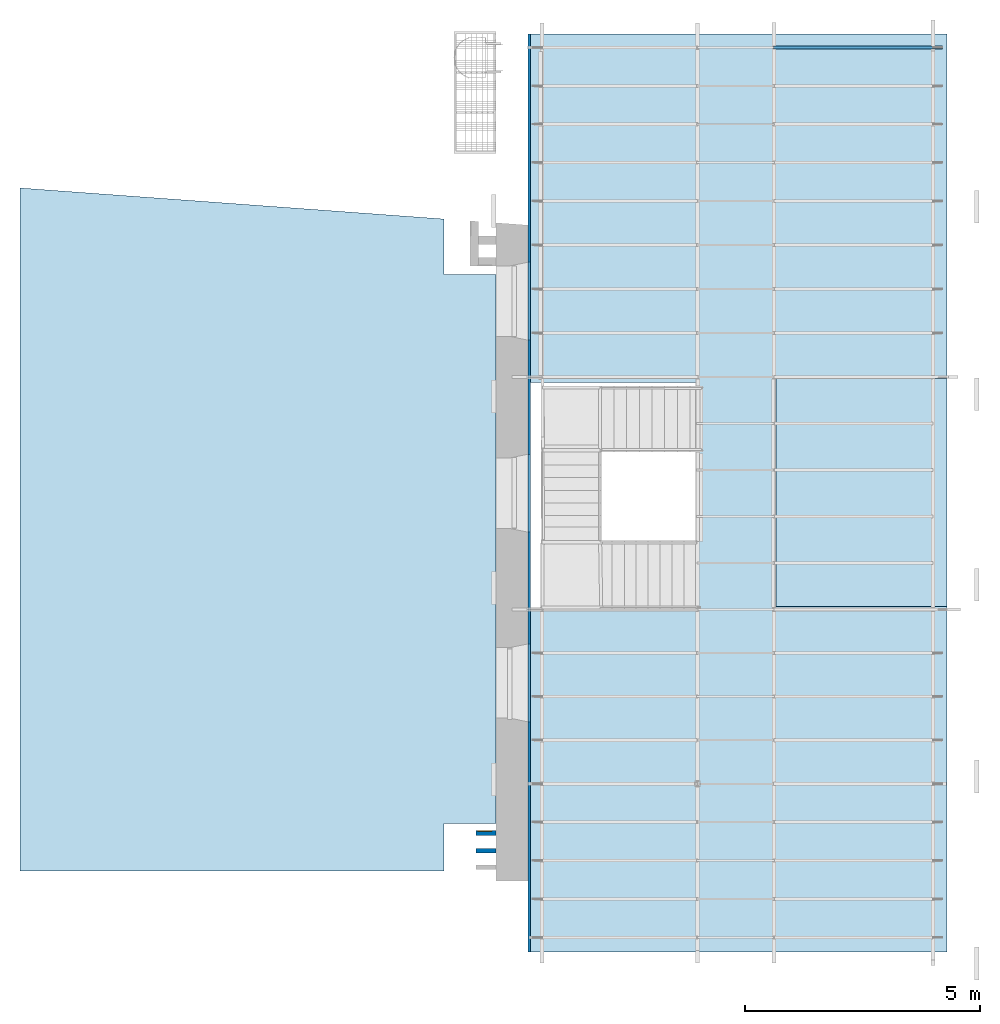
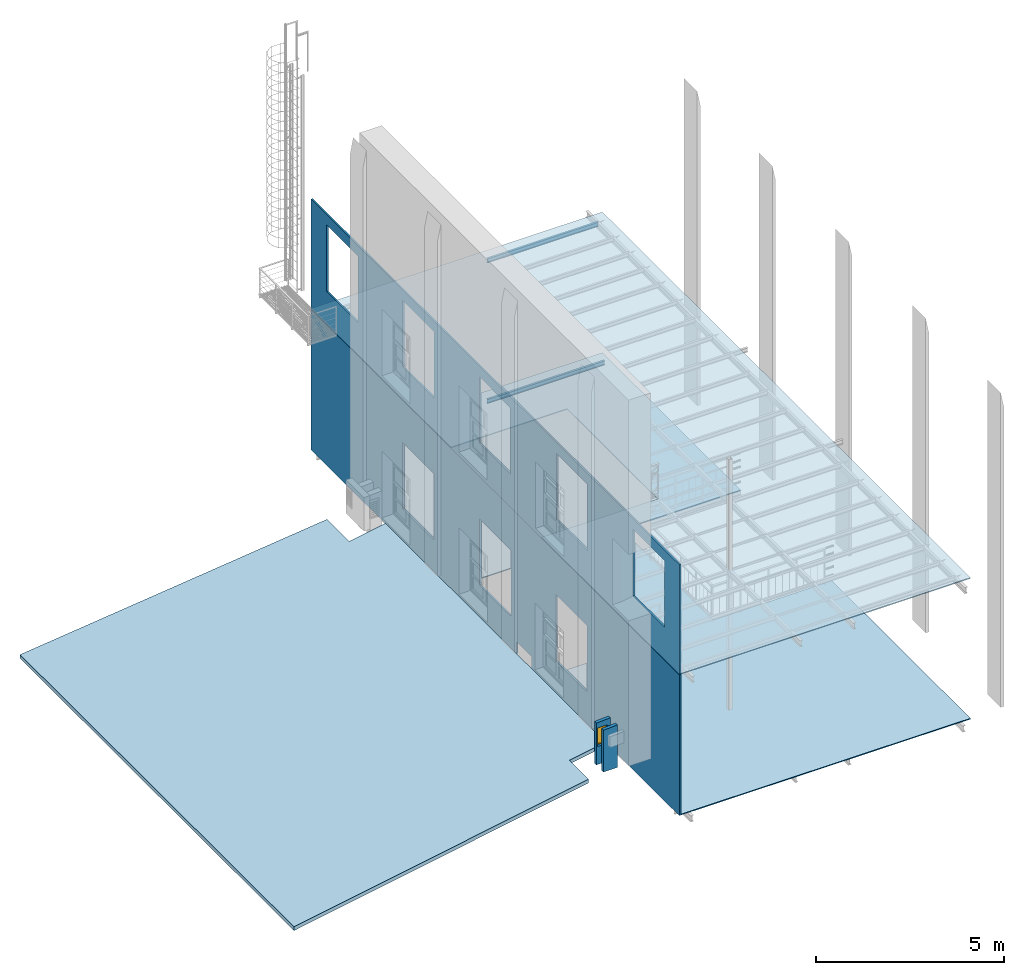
# One storey, part 22 of 33: 4 walls, 3 slabs, 2 beams, 1 window, 10 openings, 1 element without a shape of its own.
"""IFC2X3 building model written with IfcOpenShell, lengths in metres."""

from ifc_helpers import new_model, entity, si_unit, converted_unit, derived_unit, direction, frame, frame_2d, origin, origin_2d_with_axis, place, context, subcontext, project, spatial, polyline, circle_curve, parameter, trimmed, segment, composite_curve, rectangle, outline, extrude, clip, bounded_halfspace, source, transform, mapped, material, material_list, layer, layer_set, layer_usage, type_object, type_shapes, element, fill, aggregate, save


model = new_model("IFC2X3")

# Units and contexts
model_context = context("Model", 3, precision=1e-05, world=origin(), true_north=direction((6.12303176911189e-17, 1.0)))
body_context = subcontext(model_context, "Body", "Model", "MODEL_VIEW")
ifc_project = project(units=[si_unit("LENGTHUNIT", "METRE"), si_unit("AREAUNIT", "SQUARE_METRE"), si_unit("VOLUMEUNIT", "CUBIC_METRE"), converted_unit("PLANEANGLEUNIT", "DEGREE", entity("IfcRatioMeasure", 0.0174532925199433), si_unit("PLANEANGLEUNIT", "RADIAN"), dimensions=[0, 0, 0, 0, 0, 0, 0]), si_unit("MASSUNIT", "GRAM", prefix="KILO"), derived_unit("MASSDENSITYUNIT", [(si_unit("MASSUNIT", "GRAM", prefix="KILO"), 1), (si_unit("LENGTHUNIT", "METRE"), -3)]), derived_unit("MOMENTOFINERTIAUNIT", [(si_unit("LENGTHUNIT", "METRE"), 4)]), si_unit("TIMEUNIT", "SECOND"), si_unit("FREQUENCYUNIT", "HERTZ"), si_unit("THERMODYNAMICTEMPERATUREUNIT", "DEGREE_CELSIUS"), derived_unit("THERMALTRANSMITTANCEUNIT", [(si_unit("MASSUNIT", "GRAM", prefix="KILO"), 1), (si_unit("THERMODYNAMICTEMPERATUREUNIT", "KELVIN"), -1), (si_unit("TIMEUNIT", "SECOND"), -3)]), derived_unit("VOLUMETRICFLOWRATEUNIT", [(si_unit("LENGTHUNIT", "METRE"), 3), (si_unit("TIMEUNIT", "SECOND"), -1)]), si_unit("ELECTRICCURRENTUNIT", "AMPERE"), si_unit("ELECTRICVOLTAGEUNIT", "VOLT"), si_unit("POWERUNIT", "WATT"), si_unit("FORCEUNIT", "NEWTON", prefix="KILO"), si_unit("ILLUMINANCEUNIT", "LUX"), si_unit("LUMINOUSFLUXUNIT", "LUMEN"), si_unit("LUMINOUSINTENSITYUNIT", "CANDELA"), derived_unit("USERDEFINED", [(si_unit("MASSUNIT", "GRAM", prefix="KILO"), -1), (si_unit("LENGTHUNIT", "METRE"), -2), (si_unit("TIMEUNIT", "SECOND"), 3), (si_unit("LUMINOUSFLUXUNIT", "LUMEN"), 1)]), derived_unit("LINEARVELOCITYUNIT", [(si_unit("LENGTHUNIT", "METRE"), 1), (si_unit("TIMEUNIT", "SECOND"), -1)]), si_unit("PRESSUREUNIT", "PASCAL"), derived_unit("USERDEFINED", [(si_unit("LENGTHUNIT", "METRE"), -2), (si_unit("MASSUNIT", "GRAM", prefix="KILO"), 1), (si_unit("TIMEUNIT", "SECOND"), -2)]), derived_unit("LINEARFORCEUNIT", [(si_unit("MASSUNIT", "GRAM", prefix="KILO"), 1), (si_unit("LENGTHUNIT", "METRE"), 1), (si_unit("TIMEUNIT", "SECOND"), -2), (si_unit("LENGTHUNIT", "METRE"), -1)]), derived_unit("PLANARFORCEUNIT", [(si_unit("MASSUNIT", "GRAM", prefix="KILO"), 1), (si_unit("LENGTHUNIT", "METRE"), 1), (si_unit("TIMEUNIT", "SECOND"), -2), (si_unit("LENGTHUNIT", "METRE"), -2)])], contexts=[model_context])

# Site, building, storey
site_placement = place(None, origin())
site = spatial("IfcSite", under=ifc_project, at=site_placement, Name="Superficie", CompositionType="ELEMENT")
building_placement = place(site_placement, origin())
building = spatial("IfcBuilding", under=site, at=building_placement, Name="Telegestiones", CompositionType="ELEMENT")
storey_placement = place(building_placement, frame((0.0, 0.0, 4.94)))
storey = spatial("IfcBuildingStorey", under=building, at=storey_placement, Name="Nivel 1_NPT", CompositionType="ELEMENT", Elevation=4.94)

# Beams
ifc_material_1 = material(Name="Metal - Acero - 345 MPa")
beam_type = type_object("IfcBeamType", Name="IPN - Secciones en I con alas cónicas:IPN 140", PredefinedType="NOTDEFINED")
beam_1_placement = place(storey_placement, frame((11.2608126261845, 13.4536072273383, 0.0)))
element("IfcBeam", 1, at=beam_1_placement, inside=storey, type_object=beam_type, material=ifc_material_1, Name="IPN - Secciones en I con alas cónicas:IPN 140", ObjectType="IPN - Secciones en I con alas cónicas:IPN 140", context=body_context, shape_type="SweptSolid", body=[
    extrude(outline(composite_curve([segment(polyline([(0.0666671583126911, -0.032999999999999), (0.0700000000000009, -0.032999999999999)]), True, "CONTINUOUS"), segment(polyline([(0.0700000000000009, -0.032999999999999), (0.0700000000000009, 0.032999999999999)]), True, "CONTINUOUS"), segment(polyline([(0.0700000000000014, 0.032999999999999), (0.0666671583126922, 0.032999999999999)]), True, "CONTINUOUS"), segment(trimmed(circle_curve(frame_2d((0.0666671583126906, 0.0296000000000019), x_axis=(0.0, 1.0)), 0.00339999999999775), [parameter(0.0)], [parameter(82.0303896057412)], True, "PARAMETER"), True, "CONTINUOUS"), segment(polyline([(0.0632999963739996, 0.0300714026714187), (0.0601763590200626, 0.00775970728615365)]), True, "CONTINUOUS"), segment(trimmed(circle_curve(frame_2d((0.0545314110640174, 0.00855000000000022), x_axis=(0.990341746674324, -0.138647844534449)), 0.00570000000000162), [parameter(277.96961039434)], [parameter(0.0)], True, "PARAMETER"), False, "CONTINUOUS"), segment(polyline([(0.0545314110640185, 0.00284999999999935), (-0.0545314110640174, 0.00284999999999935)]), True, "CONTINUOUS"), segment(trimmed(circle_curve(frame_2d((-0.0545314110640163, 0.00855000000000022), x_axis=(0.0, -1.0)), 0.00570000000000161), [parameter(277.969610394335)], [parameter(0.0)], True, "PARAMETER"), False, "CONTINUOUS"), segment(polyline([(-0.0601763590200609, 0.00775970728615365), (-0.0632999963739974, 0.0300714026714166)]), True, "CONTINUOUS"), segment(trimmed(circle_curve(frame_2d((-0.0666671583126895, 0.0295999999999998), x_axis=(0.990341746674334, 0.138647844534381)), 0.00339999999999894), [parameter(0.0)], [parameter(82.0303896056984)], True, "PARAMETER"), True, "CONTINUOUS"), segment(polyline([(-0.0666671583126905, 0.032999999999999), (-0.0699999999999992, 0.032999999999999)]), True, "CONTINUOUS"), segment(polyline([(-0.0699999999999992, 0.0330000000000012), (-0.0699999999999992, -0.032999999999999)]), True, "CONTINUOUS"), segment(polyline([(-0.0699999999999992, -0.032999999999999), (-0.0666671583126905, -0.032999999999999)]), True, "CONTINUOUS"), segment(trimmed(circle_curve(frame_2d((-0.0666671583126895, -0.0295999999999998), x_axis=(0.0, -1.0)), 0.00339999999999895), [parameter(0.0)], [parameter(82.0303896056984)], True, "PARAMETER"), True, "CONTINUOUS"), segment(polyline([(-0.0632999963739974, -0.0300714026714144), (-0.0601763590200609, -0.00775970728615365)]), True, "CONTINUOUS"), segment(trimmed(circle_curve(frame_2d((-0.0545314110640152, -0.00855000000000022), x_axis=(-0.990341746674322, 0.138647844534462)), 0.00570000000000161), [parameter(277.969610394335)], [parameter(0.0)], True, "PARAMETER"), False, "CONTINUOUS"), segment(polyline([(-0.0545314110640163, -0.00284999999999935), (0.0545314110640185, -0.00284999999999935)]), True, "CONTINUOUS"), segment(trimmed(circle_curve(frame_2d((0.0545314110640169, -0.00855000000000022), x_axis=(0.0, 1.0)), 0.00570000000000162), [parameter(277.96961039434)], [parameter(0.0)], True, "PARAMETER"), False, "CONTINUOUS"), segment(polyline([(0.060176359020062, -0.00775970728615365), (0.0632999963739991, -0.0300714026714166)]), True, "CONTINUOUS"), segment(trimmed(circle_curve(frame_2d((0.06666715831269, -0.0295999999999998), x_axis=(-0.990341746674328, -0.138647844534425)), 0.00339999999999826), [parameter(0.0)], [parameter(82.030389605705)], True, "PARAMETER"), True, "CONTINUOUS")], self_intersect=False)), frame((0.000405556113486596, 0.0, -0.100000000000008), z_axis=(1.0, 0.0, 0.0), x_axis=(0.0, 0.0, -1.0)), (0.0, 0.0, 1.0), 3.60122731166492),
])
beam_2_placement = place(storey_placement, frame((11.2748126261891, 13.4536072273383, 4.56)))
element("IfcBeam", 2, at=beam_2_placement, inside=storey, type_object=beam_type, material=ifc_material_1, Name="IPN - Secciones en I con alas cónicas:IPN 140", ObjectType="IPN - Secciones en I con alas cónicas:IPN 140", context=body_context, shape_type="SweptSolid", body=[
    extrude(outline(composite_curve([segment(polyline([(0.0666671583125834, -0.0330000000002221), (0.0699999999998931, -0.0330000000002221)]), True, "CONTINUOUS"), segment(polyline([(0.0699999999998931, -0.0330000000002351), (0.0700000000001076, 0.0329999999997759)]), True, "CONTINUOUS"), segment(polyline([(0.0700000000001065, 0.0329999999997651), (0.0666671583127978, 0.0329999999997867)]), True, "CONTINUOUS"), segment(trimmed(circle_curve(frame_2d((0.0666671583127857, 0.0295999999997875), x_axis=(0.0, 1.0)), 0.00339999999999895), [parameter(0.0)], [parameter(82.0303896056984)], True, "PARAMETER"), True, "CONTINUOUS"), segment(polyline([(0.0632999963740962, 0.0300714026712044), (0.0601763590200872, 0.00775970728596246)]), True, "CONTINUOUS"), segment(trimmed(circle_curve(frame_2d((0.0545314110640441, 0.00854999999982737), x_axis=(0.990341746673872, -0.13864784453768)), 0.00570000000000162), [parameter(277.969610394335)], [parameter(0.0)], True, "PARAMETER"), False, "CONTINUOUS"), segment(polyline([(0.0545314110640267, 0.00284999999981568), (-0.0545314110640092, 0.00285000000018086)]), True, "CONTINUOUS"), segment(trimmed(circle_curve(frame_2d((-0.0545314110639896, 0.00855000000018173), x_axis=(0.0, -1.0)), 0.00570000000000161), [parameter(277.969610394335)], [parameter(0.0)], True, "PARAMETER"), False, "CONTINUOUS"), segment(polyline([(-0.0601763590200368, 0.00775970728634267), (-0.0632999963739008, 0.0300714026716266)]), True, "CONTINUOUS"), segment(trimmed(circle_curve(frame_2d((-0.0666671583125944, 0.0296000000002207), x_axis=(0.990341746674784, 0.138647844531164)), 0.00339999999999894), [parameter(0.0)], [parameter(82.0303896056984)], True, "PARAMETER"), True, "CONTINUOUS"), segment(polyline([(-0.0666671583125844, 0.0330000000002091), (-0.0699999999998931, 0.0330000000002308)]), True, "CONTINUOUS"), segment(polyline([(-0.0699999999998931, 0.0330000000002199), (-0.0700000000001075, -0.0329999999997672)]), True, "CONTINUOUS"), segment(polyline([(-0.0700000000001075, -0.0329999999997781), (-0.0666671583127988, -0.0329999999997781)]), True, "CONTINUOUS"), segment(trimmed(circle_curve(frame_2d((-0.0666671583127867, -0.0295999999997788), x_axis=(0.0, -1.0)), 0.00339999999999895), [parameter(0.0)], [parameter(82.0303896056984)], True, "PARAMETER"), True, "CONTINUOUS"), segment(polyline([(-0.0632999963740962, -0.0300714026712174), (-0.0601763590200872, -0.0077597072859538)]), True, "CONTINUOUS"), segment(trimmed(circle_curve(frame_2d((-0.0545314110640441, -0.00854999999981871), x_axis=(-0.990341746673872, 0.13864784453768)), 0.00570000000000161), [parameter(277.969610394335)], [parameter(0.0)], True, "PARAMETER"), False, "CONTINUOUS"), segment(polyline([(-0.0545314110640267, -0.00284999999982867), (0.0545314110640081, -0.0028500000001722)]), True, "CONTINUOUS"), segment(trimmed(circle_curve(frame_2d((0.0545314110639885, -0.00855000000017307), x_axis=(0.0, 1.0)), 0.00570000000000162), [parameter(277.969610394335)], [parameter(0.0)], True, "PARAMETER"), False, "CONTINUOUS"), segment(polyline([(0.0601763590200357, -0.00775970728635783), (0.0632999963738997, -0.0300714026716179)]), True, "CONTINUOUS"), segment(trimmed(circle_curve(frame_2d((0.0666671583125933, -0.029600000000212), x_axis=(-0.990341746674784, -0.138647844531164)), 0.00339999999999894), [parameter(0.0)], [parameter(82.0303896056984)], True, "PARAMETER"), True, "CONTINUOUS")], self_intersect=False)), frame((-0.015000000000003, 0.0, -0.100000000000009), z_axis=(1.0, 0.0, 0.0), x_axis=(0.0, 0.0, -1.0)), (0.0, 0.0, 1.0), 3.405),
])

# Roof, slab
roof_placement = place(storey_placement, frame((-4.78518737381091, -4.08639277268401, -1.01)))
roof = element("IfcRoof", 3, at=roof_placement, inside=storey, Name="Cubierta básica:ARQ-CU-EX-12-Iso", ObjectType="Cubierta básica:ARQ-CU-EX-12-Iso", ShapeType="NOTDEFINED")
ifc_material_2 = material(Name="Plástico, blanco opaco")
ifc_layer_1 = layer(ifc_material_2, 0.01)
ifc_material_3 = material(Name="EIFS, aislamiento exterior")
ifc_layer_2 = layer(ifc_material_3, 0.1)
ifc_layer_3 = layer(ifc_material_2, 0.01)
ifc_layer_set_1 = layer_set([ifc_layer_1, ifc_layer_2, ifc_layer_3], Name="Cubierta básica:ARQ-CU-EX-12-Iso")
slab_type_1 = type_object("IfcSlabType", Name="Cubierta básica:ARQ-CU-EX-12-Iso", PredefinedType="ROOF")
slab_1_placement = place(roof_placement, origin())
slab_1 = element("IfcSlab", 4, at=slab_1_placement, type_object=slab_type_1, material=ifc_layer_set_1, Name="Cubierta básica:ARQ-CU-EX-12-Iso", ObjectType="Cubierta básica:ARQ-CU-EX-12-Iso", PredefinedType="ROOF", context=body_context, shape_type="SweptSolid", body=[
    extrude(outline(polyline([(4.02390624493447, -7.27593394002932), (4.02390624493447, -6.26593394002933), (5.15121365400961, -6.26593394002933), (5.15121365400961, 5.43406605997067), (4.02390624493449, 5.43406605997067), (4.0239062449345, 6.61489049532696), (-5.15121365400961, 7.27593394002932), (-5.15121365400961, -7.27593394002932), (4.02390624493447, -7.27593394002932)])), frame((5.06973857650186, 7.27593394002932, 0.912552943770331), z_axis=(-0.177152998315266, 0.0, 0.984183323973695), x_axis=(0.984183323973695, 0.0, 0.177152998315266)), (0.177152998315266, 0.0, 0.984183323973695), 0.121928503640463),
])
aggregate(roof, [slab_1])

# Slabs
ifc_material_4 = material(Name="Contrachapado, entablados")
ifc_layer_4 = layer(ifc_material_4, 0.03)
ifc_layer_set_2 = layer_set([ifc_layer_4], Name="Suelo:ARQ-SU-3-Mad")
ifc_layer_usage_1 = layer_usage(ifc_layer_set_2, "AXIS3", "POSITIVE", 0.0)
slab_type_2 = type_object("IfcSlabType", Name="Suelo:ARQ-SU-3-Mad", PredefinedType="FLOOR", material=ifc_layer_set_2)
slab_2_placement = place(storey_placement, origin())
element("IfcSlab", 5, at=slab_2_placement, inside=storey, type_object=slab_type_2, material=ifc_layer_usage_1, Name="Suelo:ARQ-SU-3-Mad", ObjectType="Suelo:ARQ-SU-3-Mad", PredefinedType="FLOOR", context=body_context, shape_type="SweptSolid", body=[
    extrude(outline(polyline([(-9.75988206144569, -4.45265102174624), (-2.44392087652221, -4.45265102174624), (-2.44392087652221, -0.884651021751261), (2.36628731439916, -0.884651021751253), (2.36636766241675, -4.45265102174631), (9.79009228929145, -4.45265102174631), (9.79009228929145, 4.47787182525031), (2.4481524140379, 4.4778718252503), (2.4481524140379, 0.834209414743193), (-2.40076925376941, 0.834209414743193), (-2.40076925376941, 4.4778718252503), (-9.75988206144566, 4.47787182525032), (-9.75988206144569, -4.45265102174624)])), frame((10.4869408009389, 3.95351493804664, 0.0), z_axis=(0.0, 0.0, -1.0), x_axis=(0.0, 1.0, 0.0)), (0.0, 0.0, 1.0), 0.0299999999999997),
])
ifc_layer_usage_2 = layer_usage(ifc_layer_set_2, "AXIS3", "POSITIVE", 0.0)
slab_type_3 = type_object("IfcSlabType", Name="Suelo:ARQ-SU-3-Mad", PredefinedType="FLOOR", material=ifc_layer_set_2)
slab_3_placement = place(storey_placement, origin())
element("IfcSlab", 6, at=slab_3_placement, inside=storey, type_object=slab_type_3, material=ifc_layer_usage_2, Name="Suelo:ARQ-SU-3-Mad", ObjectType="Suelo:ARQ-SU-3-Mad", PredefinedType="FLOOR", context=body_context, shape_type="SweptSolid", body=[
    extrude(outline(polyline([(-9.74803627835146, -3.12401142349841), (-2.43207509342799, -3.12401142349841), (-2.43207509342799, 0.441511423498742), (2.37813315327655, 0.441511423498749), (2.37821344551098, -3.12401142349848), (9.80193807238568, -3.12401142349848), (9.80193807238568, 5.80651142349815), (-9.74803627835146, 5.80651142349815), (-9.74803627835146, -3.12401142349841)])), frame((9.15830120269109, 3.94166915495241, 4.56), z_axis=(0.0, 0.0, -1.0), x_axis=(0.0, 1.0, 0.0)), (0.0, 0.0, 1.0), 0.0299999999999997),
])

# Wall, openings
ifc_material_5 = material(Name="Placa yeso entera")
ifc_layer_5 = layer(ifc_material_5, 0.012)
ifc_material_6 = material(Name="Estructura de Hierro Galvanizado")
ifc_layer_6 = layer(ifc_material_6, 0.038)
ifc_layer_set_3 = layer_set([ifc_layer_5, ifc_layer_6], Name="Muro básico:ARQ-RE-IN-5-Ye-M2")
ifc_layer_usage_3 = layer_usage(ifc_layer_set_3, "AXIS2", "NEGATIVE", 0.025)
wall_type_1 = type_object("IfcWallType", Name="Muro básico:ARQ-RE-IN-5-Ye-M2", PredefinedType="STANDARD", material=ifc_layer_set_3)
wall_1_placement = place(storey_placement, frame((6.05928977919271, 13.7436072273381, -0.0299999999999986), z_axis=(0.0, 0.0, 1.0), x_axis=(0.0, -1.0, 0.0)))
wall_1 = element("IfcWallStandardCase", 7, at=wall_1_placement, inside=storey, type_object=wall_type_1, material=ifc_layer_usage_3, Name="Muro básico:ARQ-RE-IN-5-Ye-M2", ObjectType="Muro básico:ARQ-RE-IN-5-Ye-M2", context=body_context, shape_type="SweptSolid", body=[
    extrude(rectangle(XDim=19.5499743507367, YDim=0.0499999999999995, at=frame_2d((9.77498717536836, -2.16840434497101e-16), x_axis=(-1.0, 0.0))), origin(), (0.0, 0.0, 1.0), 4.56),
])
opening_1_placement = place(wall_1_placement, origin())
element("IfcOpeningElement", 8, at=opening_1_placement, cuts=wall_1, Name="Muro básico:ARQ-RE-IN-5-Ye-M2", ObjectType="Opening", context=body_context, shape_type="SweptSolid", body=[
    extrude(rectangle(XDim=2.15, YDim=1.65978549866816, at=frame_2d((-5.55111512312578e-16, 0.0), x_axis=(1.0, 0.0))), frame((13.8207271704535, 0.0249999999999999, 2.115), z_axis=(0.0, -1.0, 0.0), x_axis=(0.0, 0.0, 1.0)), (0.0, 0.0, 1.0), 0.05),
])
opening_2_placement = place(wall_1_placement, origin())
element("IfcOpeningElement", 9, at=opening_2_placement, cuts=wall_1, Name="Muro básico:ARQ-RE-IN-5-Ye-M2", ObjectType="Opening", context=body_context, shape_type="SweptSolid", body=[
    extrude(rectangle(XDim=2.15, YDim=1.65978549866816, at=origin_2d_with_axis()), frame((9.78074248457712, 0.025, 2.115), z_axis=(0.0, -1.0, 0.0), x_axis=(0.0, 0.0, 1.0)), (0.0, 0.0, 1.0), 0.05),
])
opening_3_placement = place(wall_1_placement, origin())
element("IfcOpeningElement", 10, at=opening_3_placement, cuts=wall_1, Name="Muro básico:ARQ-RE-IN-5-Ye-M2", ObjectType="Opening", context=body_context, shape_type="SweptSolid", body=[
    extrude(rectangle(XDim=2.15, YDim=1.65978549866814, at=frame_2d((4.9960036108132e-16, 1.11022302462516e-15), x_axis=(0.0, 1.0))), frame((5.69000000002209, 0.0249999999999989, 2.115), z_axis=(0.0, -1.0, 0.0), x_axis=(1.0, 0.0, 0.0)), (0.0, 0.0, 1.0), 0.05),
])
opening_4_placement = place(wall_1_placement, origin())
element("IfcOpeningElement", 11, at=opening_4_placement, cuts=wall_1, Name="Muro básico:ARQ-RE-IN-5-Ye-M2", ObjectType="Opening", context=body_context, shape_type="SweptSolid", body=[
    extrude(rectangle(XDim=0.399999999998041, YDim=0.799999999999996, at=frame_2d((0.0, 5.41233724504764e-16), x_axis=(0.0, 1.0))), frame((11.3060000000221, 0.0249999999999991, 0.19999999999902), z_axis=(0.0, -1.0, 0.0), x_axis=(1.0, 0.0, 0.0)), (0.0, 0.0, 1.0), 0.05),
])

ifc_layer_usage_4 = layer_usage(ifc_layer_set_3, "AXIS2", "NEGATIVE", 0.025)
wall_2_placement = place(storey_placement, frame((6.05928977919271, 13.7436072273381, 4.53), z_axis=(0.0, 0.0, 1.0), x_axis=(0.0, -1.0, 0.0)))
wall_2 = element("IfcWallStandardCase", 12, at=wall_2_placement, inside=storey, type_object=wall_type_1, material=ifc_layer_usage_4, Name="Muro básico:ARQ-RE-IN-5-Ye-M2", ObjectType="Muro básico:ARQ-RE-IN-5-Ye-M2", context=body_context, shape_type="SweptSolid", body=[
    extrude(rectangle(XDim=19.5499743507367, YDim=0.0499999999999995, at=frame_2d((9.77498717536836, -2.16840434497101e-16), x_axis=(-1.0, 0.0))), origin(), (0.0, 0.0, 1.0), 3.57571042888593),
])
opening_5_placement = place(wall_2_placement, origin())
element("IfcOpeningElement", 13, at=opening_5_placement, cuts=wall_2, Name="Muro básico:ARQ-RE-IN-5-Ye-M2", ObjectType="Opening", context=body_context, shape_type="SweptSolid", body=[
    extrude(rectangle(XDim=2.15, YDim=1.65978549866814, at=frame_2d((1.11022302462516e-15, 0.0), x_axis=(1.0, 0.0))), frame((9.77000000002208, 0.0249999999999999, 2.155), z_axis=(0.0, -1.0, 0.0), x_axis=(0.0, 0.0, -1.0)), (0.0, 0.0, 1.0), 0.05),
])
opening_6_placement = place(wall_2_placement, origin())
element("IfcOpeningElement", 14, at=opening_6_placement, cuts=wall_2, Name="Muro básico:ARQ-RE-IN-5-Ye-M2", ObjectType="Opening", context=body_context, shape_type="SweptSolid", body=[
    extrude(rectangle(XDim=2.15, YDim=1.65978549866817, at=frame_2d((-1.11022302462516e-15, 0.0), x_axis=(1.0, 0.0))), frame((1.65568896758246, 0.0250000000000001, 2.155), z_axis=(0.0, -1.0, 0.0), x_axis=(0.0, 0.0, 1.0)), (0.0, 0.0, 1.0), 0.05),
])
opening_7_placement = place(wall_2_placement, origin())
element("IfcOpeningElement", 15, at=opening_7_placement, cuts=wall_2, Name="Muro básico:ARQ-RE-IN-5-Ye-M2", ObjectType="Opening", context=body_context, shape_type="SweptSolid", body=[
    extrude(rectangle(XDim=2.15, YDim=1.65978549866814, at=frame_2d((1.11022302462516e-15, 0.0), x_axis=(1.0, 0.0))), frame((5.69000000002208, 0.0249999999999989, 2.155), z_axis=(0.0, -1.0, 0.0), x_axis=(0.0, 0.0, -1.0)), (0.0, 0.0, 1.0), 0.05),
])
opening_8_placement = place(wall_2_placement, origin())
element("IfcOpeningElement", 16, at=opening_8_placement, cuts=wall_2, Name="Muro básico:ARQ-RE-IN-5-Ye-M2", ObjectType="Opening", context=body_context, shape_type="SweptSolid", body=[
    extrude(rectangle(XDim=2.15, YDim=1.65978549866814, at=origin_2d_with_axis()), frame((13.8500000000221, 0.0249999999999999, 2.155), z_axis=(0.0, -1.0, 0.0), x_axis=(0.0, 0.0, 1.0)), (0.0, 0.0, 1.0), 0.05),
])
opening_9_placement = place(wall_2_placement, origin())
element("IfcOpeningElement", 17, at=opening_9_placement, cuts=wall_2, Name="Muro básico:ARQ-RE-IN-5-Ye-M2", ObjectType="Opening", context=body_context, shape_type="SweptSolid", body=[
    extrude(rectangle(XDim=2.15, YDim=1.65978549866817, at=frame_2d((0.0, 1.11022302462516e-15), x_axis=(0.0, 1.0))), frame((17.9300000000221, 0.0249999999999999, 2.155), z_axis=(0.0, -1.0, 0.0), x_axis=(-1.0, 0.0, 0.0)), (0.0, 0.0, 1.0), 0.05),
])

# Wall
ifc_layer_7 = layer(ifc_material_5, 0.015)
ifc_layer_8 = layer(ifc_material_6, 0.07)
ifc_layer_9 = layer(ifc_material_5, 0.015)
ifc_layer_set_4 = layer_set([ifc_layer_7, ifc_layer_8, ifc_layer_9], Name="Muro básico:ARQ-MU-IN-10-Ye-T8")
ifc_layer_usage_5 = layer_usage(ifc_layer_set_4, "AXIS2", "NEGATIVE", 0.05)
wall_type_2 = type_object("IfcWallType", Name="Muro básico:ARQ-MU-IN-10-Ye-T8", PredefinedType="STANDARD", material=ifc_layer_set_4)
wall_3_placement = place(storey_placement, frame((4.92428977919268, -3.65639277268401, 0.5)))
element("IfcWallStandardCase", 18, at=wall_3_placement, inside=storey, type_object=wall_type_2, material=ifc_layer_usage_5, Name="Muro básico:ARQ-MU-IN-10-Ye-T8", ObjectType="Muro básico:ARQ-MU-IN-10-Ye-T8", context=body_context, shape_type="Clipping", body=[
    clip(extrude(rectangle(XDim=0.43, YDim=0.1, at=frame_2d((0.215, -5.89805981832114e-17), x_axis=(-1.0, 0.0))), origin(), (0.0, 0.0, 1.0), 1.37985612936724), bounded_halfspace(frame((0.0, -0.05, 1.35405612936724), z_axis=(-0.0598922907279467, 0.0, 0.998204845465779), x_axis=(0.0, 1.0, 0.0)), False, frame((0.0, -0.05, 1.35405612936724)), polyline([(0.0, 0.0), (0.43, 0.0), (0.429999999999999, 0.0999999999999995), (0.0, 0.1), (0.0, 0.0)]))),
])

# Wall, opening, window
ifc_layer_usage_6 = layer_usage(ifc_layer_set_4, "AXIS2", "NEGATIVE", 0.05)
wall_4_placement = place(storey_placement, frame((4.92428977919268, -3.27639277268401, 0.5)))
wall_4 = element("IfcWallStandardCase", 19, at=wall_4_placement, inside=storey, type_object=wall_type_2, material=ifc_layer_usage_6, Name="Muro básico:ARQ-MU-IN-10-Ye-T8", ObjectType="Muro básico:ARQ-MU-IN-10-Ye-T8", context=body_context, shape_type="Clipping", body=[
    clip(extrude(rectangle(XDim=0.429999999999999, YDim=0.1, at=frame_2d((0.214999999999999, -5.89805981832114e-17), x_axis=(-1.0, 0.0))), origin(), (0.0, 0.0, 1.0), 1.37985612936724), bounded_halfspace(frame((0.0, -0.05, 1.35405612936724), z_axis=(-0.0598922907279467, 0.0, 0.998204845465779), x_axis=(0.0, 1.0, 0.0)), False, frame((0.0, -0.05, 1.35405612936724)), polyline([(0.0, 0.0), (0.429999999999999, 0.0), (0.429999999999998, 0.0999999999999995), (0.0, 0.1), (0.0, 0.0)]))),
])
opening_10_placement = place(wall_4_placement, frame((0.0399999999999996, -0.0500000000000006, 0.584595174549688)))
opening_10 = element("IfcOpeningElement", 20, at=opening_10_placement, cuts=wall_4, Name="ARQ-Rejilla ventilación:ARQ-Rejilla ventilación:1", ObjectType="Opening", context=body_context, shape_type="SweptSolid", body=[
    extrude(rectangle(XDim=0.6, YDim=0.3, at=frame_2d((0.3, 0.15), x_axis=(1.0, 0.0))), frame((0.0, 0.0, 0.0), z_axis=(0.0, 1.0, 0.0), x_axis=(0.0, 0.0, 1.0)), (0.0, 0.0, 1.0), 0.1),
])
ifc_material_7 = material(Name="Aluminio (1)")
ifc_material_list = material_list([ifc_material_7, ifc_material_7, ifc_material_7, ifc_material_7, ifc_material_7, ifc_material_7, ifc_material_7, ifc_material_7, ifc_material_7, ifc_material_7])
window_style = type_object("IfcWindowStyle", Name="ARQ-Rejilla ventilación:ARQ-Rejilla ventilación", ConstructionType="NOTDEFINED", OperationType="NOTDEFINED", ParameterTakesPrecedence=False, Sizeable=False, material=ifc_material_list)
shared_shape = source(origin(), body_context, "Body", "SweptSolid", [
    extrude(outline(polyline([(-0.01, -0.0325000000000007), (-0.00453733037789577, -0.0325000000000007), (0.00999999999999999, 0.032500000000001), (0.00453733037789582, 0.032500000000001), (-0.01, -0.0325000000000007)])), frame((0.0300000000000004, 0.0900000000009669, 0.537499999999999), z_axis=(1.0, 0.0, 0.0), x_axis=(0.0, -1.0, 0.0)), (0.0, 0.0, 1.0), 0.24),
    extrude(outline(polyline([(-0.0100000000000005, -0.032500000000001), (-0.00453733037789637, -0.032500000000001), (0.0100000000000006, 0.0325000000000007), (0.00453733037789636, 0.0325000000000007), (-0.0100000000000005, -0.032500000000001)])), frame((0.0300000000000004, 0.0900000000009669, 0.212499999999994), z_axis=(1.0, 0.0, 0.0), x_axis=(0.0, -1.0, 0.0)), (0.0, 0.0, 1.0), 0.24),
    extrude(outline(polyline([(-0.010000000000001, -0.0325000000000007), (-0.00453733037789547, -0.0325000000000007), (0.0100000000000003, 0.032500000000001), (0.00453733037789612, 0.032500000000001), (-0.010000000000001, -0.0325000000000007)])), frame((0.0300000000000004, 0.0900000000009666, 0.147499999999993), z_axis=(1.0, 0.0, 0.0), x_axis=(0.0, -1.0, 0.0)), (0.0, 0.0, 1.0), 0.24),
    extrude(outline(polyline([(-0.0100000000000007, -0.0325000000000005), (-0.00453733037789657, -0.0325000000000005), (0.0100000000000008, 0.0325000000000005), (0.00453733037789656, 0.0325000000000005), (-0.0100000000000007, -0.0325000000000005)])), frame((0.0300000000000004, 0.0900000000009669, 0.0824999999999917), z_axis=(1.0, 0.0, 0.0), x_axis=(0.0, -1.0, 0.0)), (0.0, 0.0, 1.0), 0.24),
    extrude(outline(polyline([(-0.0049678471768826, -0.0099999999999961), (0.000494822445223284, -0.0099999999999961), (0.00496784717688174, 0.00999999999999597), (-0.000494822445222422, 0.00999999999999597), (-0.0049678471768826, -0.0099999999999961)])), frame((0.0300000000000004, 0.0950321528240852, 0.0399999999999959), z_axis=(1.0, 0.0, 0.0), x_axis=(0.0, -1.0, 0.0)), (0.0, 0.0, 1.0), 0.24),
    extrude(outline(polyline([(-0.0100000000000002, -0.032500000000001), (-0.00453733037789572, -0.032500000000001), (0.0100000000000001, 0.0325000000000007), (0.00453733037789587, 0.0325000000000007), (-0.0100000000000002, -0.032500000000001)])), frame((0.0300000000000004, 0.0900000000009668, 0.472499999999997), z_axis=(1.0, 0.0, 0.0), x_axis=(0.0, -1.0, 0.0)), (0.0, 0.0, 1.0), 0.24),
    extrude(outline(polyline([(-0.0100000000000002, -0.0325000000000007), (-0.00453733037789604, -0.0325000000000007), (0.0100000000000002, 0.032500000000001), (0.00453733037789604, 0.032500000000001), (-0.0100000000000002, -0.0325000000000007)])), frame((0.0300000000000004, 0.0900000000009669, 0.407499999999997), z_axis=(1.0, 0.0, 0.0), x_axis=(0.0, -1.0, 0.0)), (0.0, 0.0, 1.0), 0.24),
    extrude(outline(polyline([(-0.0100000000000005, -0.032500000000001), (-0.00453733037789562, -0.032500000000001), (0.0100000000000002, 0.0325000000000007), (0.00453733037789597, 0.0325000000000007), (-0.0100000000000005, -0.032500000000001)])), frame((0.0300000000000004, 0.0900000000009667, 0.342499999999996), z_axis=(1.0, 0.0, 0.0), x_axis=(0.0, -1.0, 0.0)), (0.0, 0.0, 1.0), 0.24),
    extrude(outline(polyline([(-0.0100000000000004, -0.0325000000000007), (-0.00453733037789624, -0.0325000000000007), (0.0100000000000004, 0.032500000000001), (0.00453733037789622, 0.032500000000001), (-0.0100000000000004, -0.0325000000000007)])), frame((0.0300000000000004, 0.0900000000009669, 0.277499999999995), z_axis=(1.0, 0.0, 0.0), x_axis=(0.0, -1.0, 0.0)), (0.0, 0.0, 1.0), 0.24),
    extrude(outline(polyline([(-0.15, -0.3), (0.15, -0.3), (0.15, 0.3), (-0.15, 0.3), (-0.15, -0.3)]), holes=[polyline([(-0.12, -0.27), (-0.12, 0.27), (0.12, 0.27), (0.12, -0.27), (-0.12, -0.27)])]), frame((0.15, 0.0800000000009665, 0.3), z_axis=(0.0, 1.0, 0.0), x_axis=(1.0, 0.0, 0.0)), (0.0, 0.0, 1.0), 0.02),
])
type_shapes(window_style, [shared_shape])
window_placement = place(opening_10_placement, origin())
window = element("IfcWindow", 21, at=window_placement, inside=storey, type_object=window_style, material=ifc_material_7, Name="ARQ-Rejilla ventilación:ARQ-Rejilla ventilación", ObjectType="ARQ-Rejilla ventilación:ARQ-Rejilla ventilación", OverallHeight=0.6, OverallWidth=0.3, context=body_context, shape_type="MappedRepresentation", body=[
    mapped(shared_shape, transform((0.0, 0.0, 0.0), scale=1.0)),
])
fill(opening_10, window)

save(model, "model.ifc")
